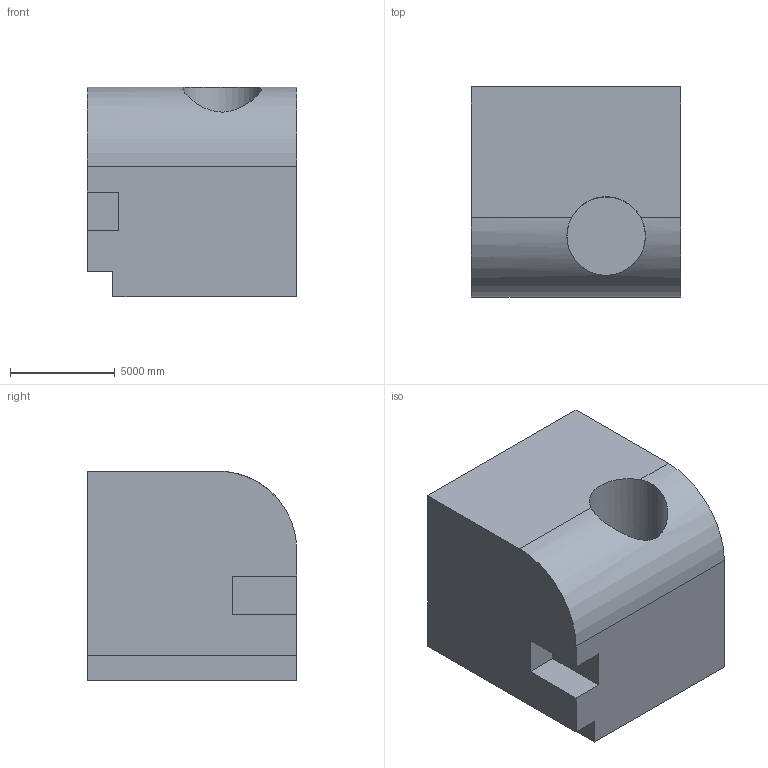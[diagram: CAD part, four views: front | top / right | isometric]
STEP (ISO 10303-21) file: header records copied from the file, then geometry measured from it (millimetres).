
FILE_DESCRIPTION (( 'STEP AP203' ), '1' );
FILE_NAME ('1394.STEP', '2022-08-18T14:13:06', ( 'user' ), ( '' ), 'SwSTEP 2.0', 'SolidWorks 2021', '' );
FILE_SCHEMA (( 'CONFIG_CONTROL_DESIGN' ));
Length unit declared in the file: centimetre
Products named in the file (1): 1394
Bounding box: 10000 x 10000 x 10000 mm (x, y, z)
Volume: 855793679429.7 mm3; surface area: 678220805 mm2
Topology: 1 solids, 1 shells, 16 faces, 42 edges, 28 vertices
Faces by surface type: plane 13, cylinder 3
Entity records: 791 total; most frequent: CARTESIAN_POINT 316, ORIENTED_EDGE 84, DIRECTION 78, EDGE_CURVE 42, VECTOR 34, LINE 34, VERTEX_POINT 28, AXIS2_PLACEMENT_3D 22
